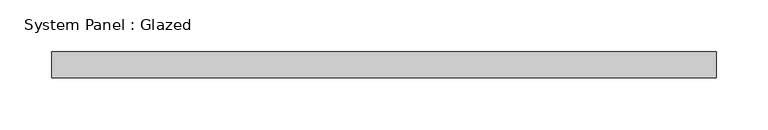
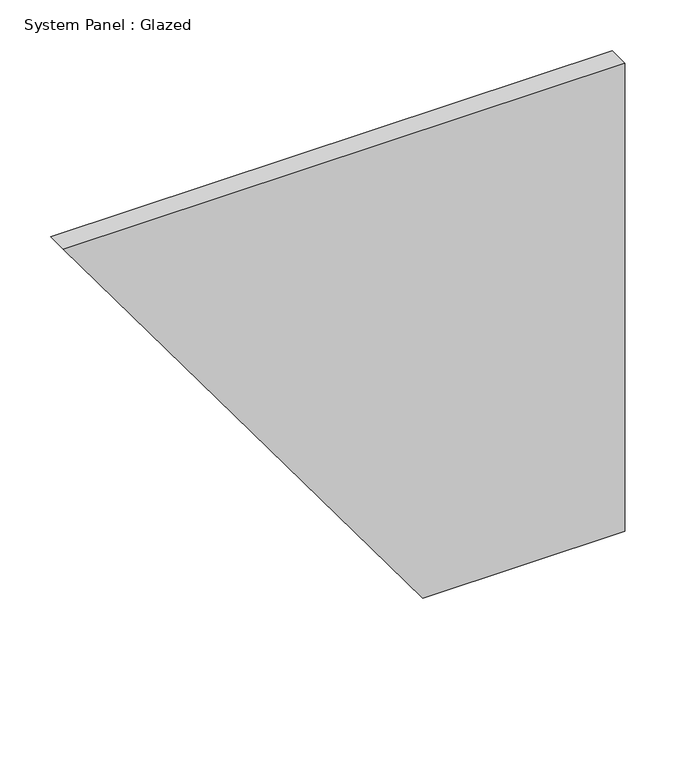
"""IFC4 building model written with IfcOpenShell, lengths in millimetres: plate geometry, System Panel : Glazed."""

from ifc_helpers import new_model, si_unit, frame, origin, place, context, project, spatial, polyline, outline, extrude, source, transform, mapped, element, save


def system_panel_glazed_92c4ef80(model_context):
    return source(origin(), model_context, "Body", "SweptSolid", [
        extrude(outline(polyline([(0.0, 89.9134831), (0.0, 320.5830452), (565.0, 320.5830452), (565.0, -320.5830452), (0.0, 89.9134831)])), frame((0.0, 24.5, 0.0), z_axis=(0.0, 1.0, 0.0), x_axis=(0.0, 0.0, 1.0)), (0.0, 0.0, 1.0), 25.0),
    ])


if __name__ == "__main__":
    model = new_model("IFC4")
    model_context = context("Model", 3, world=origin())
    ifc_project = project(units=[si_unit("LENGTHUNIT", "METRE", prefix="MILLI")], contexts=[model_context])
    site = spatial("IfcSite", under=ifc_project)
    building = spatial("IfcBuilding", under=site)
    placement = place(None, origin())
    system_panel_glazed_shape = system_panel_glazed_92c4ef80(model_context)
    element("IfcPlate", 1, ObjectType="System Panel : Glazed", at=placement, inside=building, context=model_context, shape_type="MappedRepresentation", body=[
        mapped(system_panel_glazed_shape, transform((0.0, 0.0, 0.0), x_axis=(1.0, 0.0, 0.0), y_axis=(0.0, 1.0, 0.0), z_axis=(0.0, 0.0, 1.0))),
    ])
    save(model, "model.ifc")
